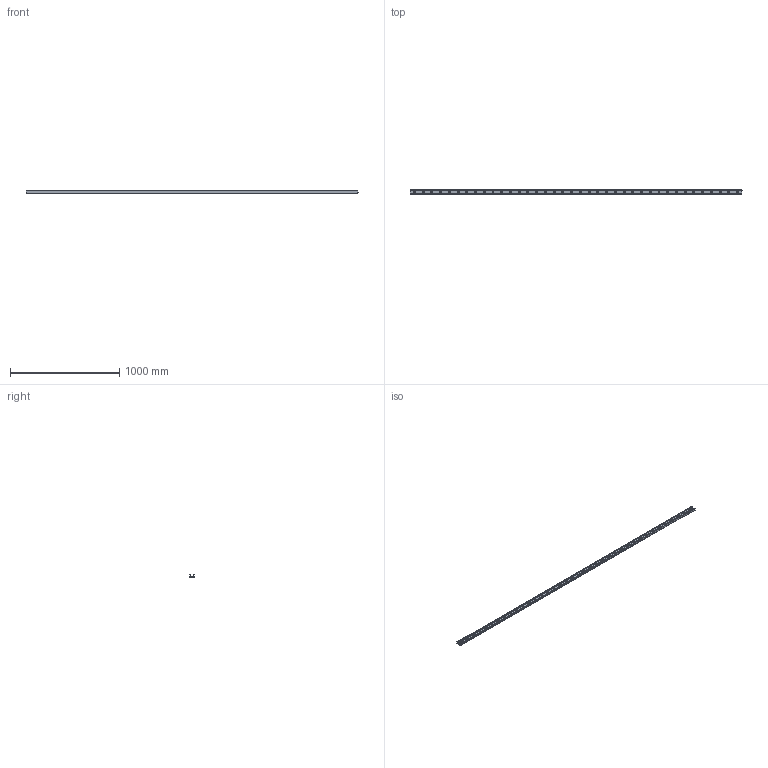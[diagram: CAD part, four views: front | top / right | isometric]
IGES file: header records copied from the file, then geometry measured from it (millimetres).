
Start section: SolidWorks IGES file using analytic representation for surfaces
Global section: file name: C:\Users\IanO\Desktop\43\L1943.ULC43_v2_20180121_IGES\L1943.ULC43-3040.igs; native system: SolidWorks 2017; preprocessor: SolidWorks 2017; author: IanO; date: 190121.085155; units: millimetre
Bounding box: 3040 x 43 x 21 mm (x, y, z)
Surface area: 476722.1 mm2 (no closed solid volume)
Topology: 0 solids, 0 shells, 216 faces, 5766 edges, 5766 vertices
Faces by surface type: revolution 165, bspline 51
